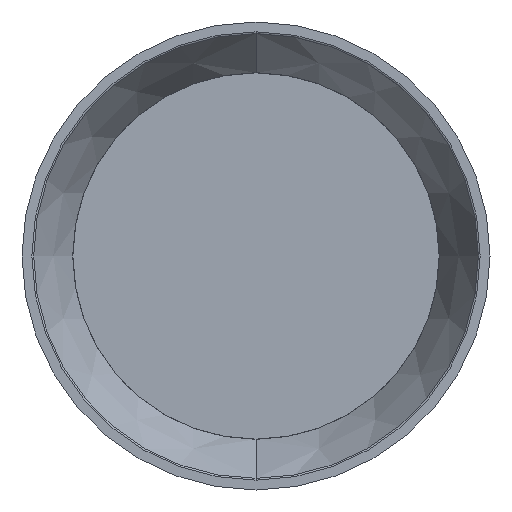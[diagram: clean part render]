
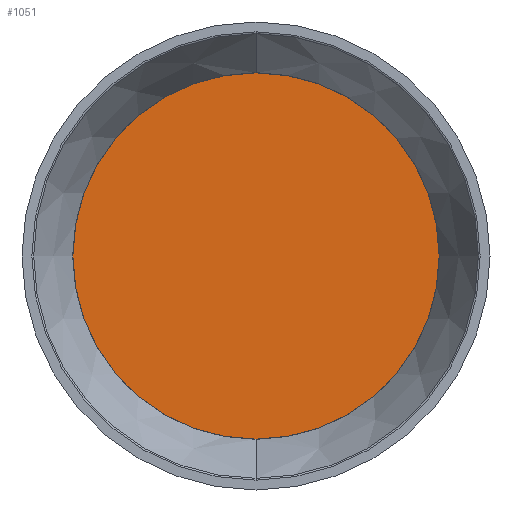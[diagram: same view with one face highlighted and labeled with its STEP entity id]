
A CAD part, front view. The second image highlights one B-rep face of the part: STEP entity #1051.
In plain terms, the highlighted planar face has unit normal (0, -1, 0).
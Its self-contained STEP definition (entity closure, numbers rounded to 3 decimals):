
#4 = CIRCLE ( 'NONE', #976, 96.5 ) ;
#15 = DIRECTION ( 'NONE',  ( 0., 0., 1. ) ) ;
#38 = EDGE_CURVE ( 'NONE', #1289, #1528, #669, .T. ) ;
#72 = EDGE_CURVE ( 'NONE', #1528, #1289, #4, .T. ) ;
#103 = DIRECTION ( 'NONE',  ( 0., 1., 0. ) ) ;
#194 = PLANE ( 'NONE',  #317 ) ;
#215 = CARTESIAN_POINT ( 'NONE',  ( 0., 0., 0. ) ) ;
#221 = DIRECTION ( 'NONE',  ( 0., 0., 1. ) ) ;
#317 = AXIS2_PLACEMENT_3D ( 'NONE', #215, #103, #221 ) ;
#454 = CARTESIAN_POINT ( 'NONE',  ( 0., 0., 96.5 ) ) ;
#585 = DIRECTION ( 'NONE',  ( 0., 1., 0. ) ) ;
#598 = DIRECTION ( 'NONE',  ( 0., 1., 0. ) ) ;
#669 = CIRCLE ( 'NONE', #1448, 96.5 ) ;
#714 = CARTESIAN_POINT ( 'NONE',  ( 0., 0., 0. ) ) ;
#976 = AXIS2_PLACEMENT_3D ( 'NONE', #714, #585, #15 ) ;
#988 = FACE_OUTER_BOUND ( 'NONE', #1156, .T. ) ;
#1051 = ADVANCED_FACE ( 'NONE', ( #988 ), #194, .F. ) ;
#1073 = CARTESIAN_POINT ( 'NONE',  ( 0., 0., -96.5 ) ) ;
#1086 = CARTESIAN_POINT ( 'NONE',  ( 0., 0., 0. ) ) ;
#1156 = EDGE_LOOP ( 'NONE', ( #1541, #1224 ) ) ;
#1224 = ORIENTED_EDGE ( 'NONE', *, *, #72, .F. ) ;
#1289 = VERTEX_POINT ( 'NONE', #1073 ) ;
#1448 = AXIS2_PLACEMENT_3D ( 'NONE', #1086, #598, #1580 ) ;
#1528 = VERTEX_POINT ( 'NONE', #454 ) ;
#1541 = ORIENTED_EDGE ( 'NONE', *, *, #38, .F. ) ;
#1580 = DIRECTION ( 'NONE',  ( 0., 0., 1. ) ) ;
